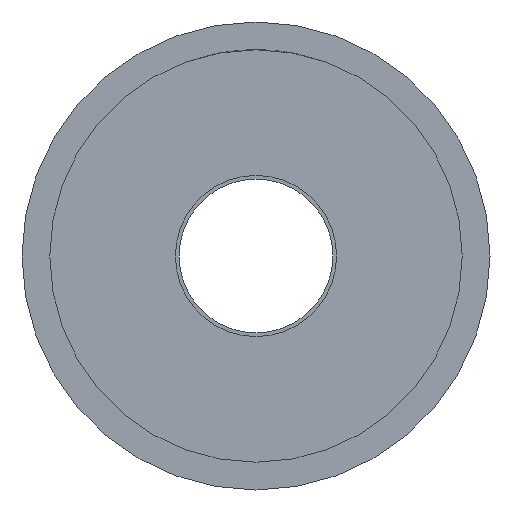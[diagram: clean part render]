
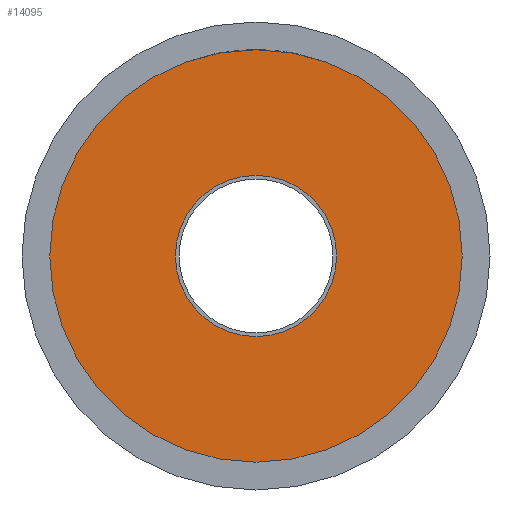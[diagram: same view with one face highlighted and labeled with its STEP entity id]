
A CAD part, front view. The second image highlights one B-rep face of the part: STEP entity #14095.
In plain terms, the highlighted planar face has unit normal (0, -1, 0).
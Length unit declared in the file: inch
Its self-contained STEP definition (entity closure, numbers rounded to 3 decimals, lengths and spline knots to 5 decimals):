
#13778=CARTESIAN_POINT('',(5.11811,2.99213,0.0));
#13779=VERTEX_POINT('',#13778);
#13780=CARTESIAN_POINT('',(0.0,2.99213,0.0));
#13781=DIRECTION('',(0.0,-1.0,0.0));
#13782=DIRECTION('',(1.0,0.0,0.0));
#13783=AXIS2_PLACEMENT_3D('',#13780,#13781,#13782);
#13784=CIRCLE('',#13783,5.11811);
#13785=EDGE_CURVE('',#13779,#13779,#13784,.T.);
#14076=CARTESIAN_POINT('',(3.55906,2.99213,0.0));
#14077=DIRECTION('',(0.0,-1.0,0.0));
#14078=DIRECTION('',(0.0,0.0,-1.0));
#14079=AXIS2_PLACEMENT_3D('',#14076,#14077,#14078);
#14080=PLANE('',#14079);
#14081=ORIENTED_EDGE('',*,*,#13785,.T.);
#14082=EDGE_LOOP('',(#14081));
#14083=FACE_OUTER_BOUND('',#14082,.T.);
#14084=CARTESIAN_POINT('',(2.,2.99213,0.0));
#14085=VERTEX_POINT('',#14084);
#14086=CARTESIAN_POINT('',(0.0,2.99213,0.0));
#14087=DIRECTION('',(0.0,-1.0,0.0));
#14088=DIRECTION('',(1.0,0.0,0.0));
#14089=AXIS2_PLACEMENT_3D('',#14086,#14087,#14088);
#14090=CIRCLE('',#14089,2.);
#14091=EDGE_CURVE('',#14085,#14085,#14090,.T.);
#14092=ORIENTED_EDGE('',*,*,#14091,.F.);
#14093=EDGE_LOOP('',(#14092));
#14094=FACE_BOUND('',#14093,.T.);
#14095=ADVANCED_FACE('',(#14083,#14094),#14080,.T.);
